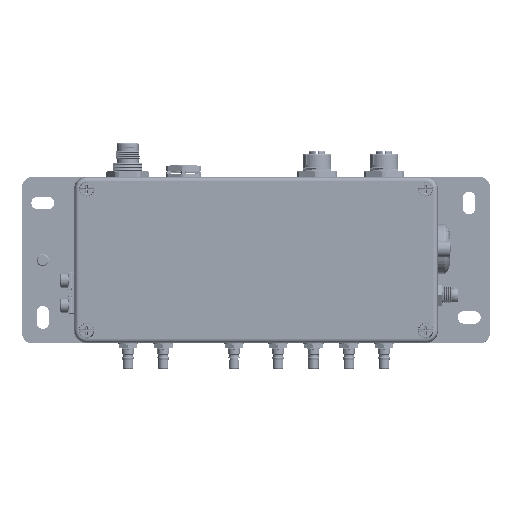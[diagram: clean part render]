
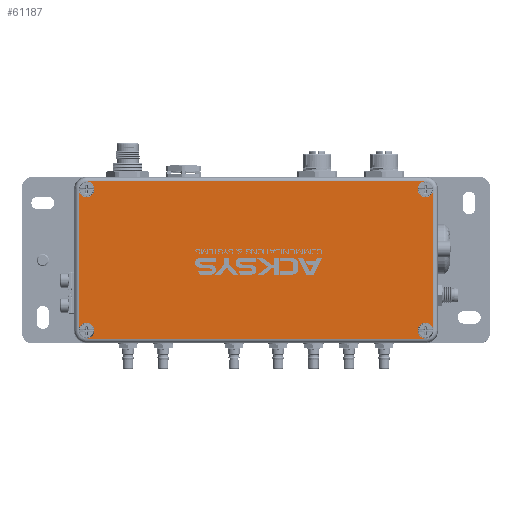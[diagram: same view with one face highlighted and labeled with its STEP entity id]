
A CAD part, top view. The second image highlights one B-rep face of the part: STEP entity #61187.
In plain terms, the highlighted planar face has unit normal (0, 0, 1).
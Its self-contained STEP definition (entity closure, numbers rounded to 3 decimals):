
#2388=PLANE('',#65035);
#5036=FACE_OUTER_BOUND('',#8688,.T.);
#8688=EDGE_LOOP('',(#41817,#41818,#41819,#41820,#41821,#41822,#41823,#41824,
#41825,#41826));
#12562=LINE('',#89896,#17716);
#12597=LINE('',#90296,#17751);
#12599=LINE('',#90305,#17753);
#12602=LINE('',#90311,#17756);
#17716=VECTOR('',#71612,1.);
#17751=VECTOR('',#71753,1.);
#17753=VECTOR('',#71765,1.);
#17756=VECTOR('',#71772,1.);
#22849=CIRCLE('',#64928,3.8);
#22852=CIRCLE('',#64931,3.8);
#22855=CIRCLE('',#64936,3.8);
#22858=CIRCLE('',#64939,3.8);
#22864=CIRCLE('',#64947,3.8);
#22869=CIRCLE('',#64954,3.8);
#25825=VERTEX_POINT('',#89785);
#25827=VERTEX_POINT('',#89791);
#25830=VERTEX_POINT('',#89798);
#25833=VERTEX_POINT('',#89810);
#25835=VERTEX_POINT('',#89816);
#25838=VERTEX_POINT('',#89823);
#25842=VERTEX_POINT('',#89836);
#25846=VERTEX_POINT('',#89848);
#25849=VERTEX_POINT('',#89859);
#25853=VERTEX_POINT('',#89871);
#32051=EDGE_CURVE('',#25827,#25825,#22849,.T.);
#32055=EDGE_CURVE('',#25830,#25827,#22852,.T.);
#32060=EDGE_CURVE('',#25835,#25833,#22855,.T.);
#32064=EDGE_CURVE('',#25838,#25835,#22858,.T.);
#32074=EDGE_CURVE('',#25842,#25846,#22864,.T.);
#32082=EDGE_CURVE('',#25849,#25853,#22869,.T.);
#32092=EDGE_CURVE('',#25842,#25825,#12562,.T.);
#32179=EDGE_CURVE('',#25838,#25853,#12597,.T.);
#32184=EDGE_CURVE('',#25830,#25833,#12599,.T.);
#32188=EDGE_CURVE('',#25849,#25846,#12602,.T.);
#41817=ORIENTED_EDGE('',*,*,#32055,.T.);
#41818=ORIENTED_EDGE('',*,*,#32051,.T.);
#41819=ORIENTED_EDGE('',*,*,#32092,.F.);
#41820=ORIENTED_EDGE('',*,*,#32074,.T.);
#41821=ORIENTED_EDGE('',*,*,#32188,.F.);
#41822=ORIENTED_EDGE('',*,*,#32082,.T.);
#41823=ORIENTED_EDGE('',*,*,#32179,.F.);
#41824=ORIENTED_EDGE('',*,*,#32064,.T.);
#41825=ORIENTED_EDGE('',*,*,#32060,.T.);
#41826=ORIENTED_EDGE('',*,*,#32184,.F.);
#61187=ADVANCED_FACE('',(#5036),#2388,.F.);
#64928=AXIS2_PLACEMENT_3D('',#89792,#71529,#71530);
#64931=AXIS2_PLACEMENT_3D('',#89799,#71536,#71537);
#64936=AXIS2_PLACEMENT_3D('',#89817,#71546,#71547);
#64939=AXIS2_PLACEMENT_3D('',#89824,#71553,#71554);
#64947=AXIS2_PLACEMENT_3D('',#89853,#71570,#71571);
#64954=AXIS2_PLACEMENT_3D('',#89876,#71585,#71586);
#65035=AXIS2_PLACEMENT_3D('',#90332,#71796,#71797);
#71529=DIRECTION('center_axis',(0.,0.,-1.));
#71530=DIRECTION('ref_axis',(1.,0.,0.));
#71536=DIRECTION('center_axis',(0.,0.,-1.));
#71537=DIRECTION('ref_axis',(1.,0.,0.));
#71546=DIRECTION('center_axis',(0.,0.,-1.));
#71547=DIRECTION('ref_axis',(1.,0.,0.));
#71553=DIRECTION('center_axis',(0.,0.,-1.));
#71554=DIRECTION('ref_axis',(1.,0.,0.));
#71570=DIRECTION('center_axis',(0.,0.,-1.));
#71571=DIRECTION('ref_axis',(1.,0.,0.));
#71585=DIRECTION('center_axis',(0.,0.,-1.));
#71586=DIRECTION('ref_axis',(1.,0.,0.));
#71612=DIRECTION('',(1.,0.,0.));
#71753=DIRECTION('',(-1.,0.,0.));
#71765=DIRECTION('',(0.,-1.,0.));
#71772=DIRECTION('',(0.,1.,0.));
#71796=DIRECTION('center_axis',(0.,0.,-1.));
#71797=DIRECTION('ref_axis',(1.,0.,0.));
#89785=CARTESIAN_POINT('',(0.594,30.366,15.));
#89791=CARTESIAN_POINT('',(-2.752,26.593,15.));
#89792=CARTESIAN_POINT('Origin',(1.048,26.593,15.));
#89798=CARTESIAN_POINT('',(4.821,26.139,15.));
#89799=CARTESIAN_POINT('Origin',(1.048,26.593,15.));
#89810=CARTESIAN_POINT('',(4.821,-40.953,15.));
#89816=CARTESIAN_POINT('',(-2.752,-41.407,15.));
#89817=CARTESIAN_POINT('Origin',(1.048,-41.407,15.));
#89823=CARTESIAN_POINT('',(0.594,-45.179,15.));
#89824=CARTESIAN_POINT('Origin',(1.048,-41.407,15.));
#89836=CARTESIAN_POINT('',(-161.498,30.366,15.));
#89848=CARTESIAN_POINT('',(-165.725,26.139,15.));
#89853=CARTESIAN_POINT('Origin',(-161.952,26.593,15.));
#89859=CARTESIAN_POINT('',(-165.725,-40.953,15.));
#89871=CARTESIAN_POINT('',(-161.498,-45.179,15.));
#89876=CARTESIAN_POINT('Origin',(-161.952,-41.407,15.));
#89896=CARTESIAN_POINT('',(-80.452,30.366,15.));
#90296=CARTESIAN_POINT('',(-80.452,-45.179,15.));
#90305=CARTESIAN_POINT('',(4.821,-7.407,15.));
#90311=CARTESIAN_POINT('',(-165.725,-7.407,15.));
#90332=CARTESIAN_POINT('Origin',(-80.452,-7.407,15.));
